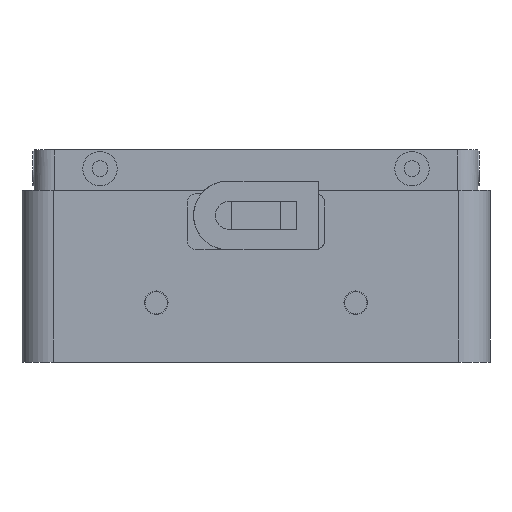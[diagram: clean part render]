
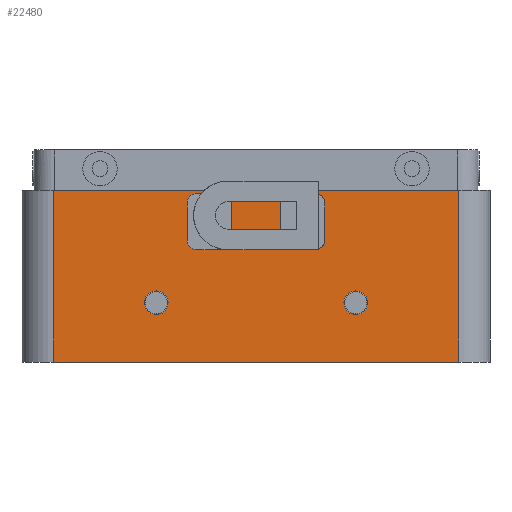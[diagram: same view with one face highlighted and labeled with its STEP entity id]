
A CAD part, left-side view. The second image highlights one B-rep face of the part: STEP entity #22480.
In plain terms, the highlighted planar face has unit normal (-1, 0, 0).
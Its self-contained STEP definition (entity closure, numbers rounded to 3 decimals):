
#14661=CARTESIAN_POINT('Vertex',(-94.,65.,55.)) ;
#14664=CARTESIAN_POINT('Line Origine',(-94.,0.,55.)) ;
#14668=CARTESIAN_POINT('Vertex',(-94.,-65.,55.)) ;
#22274=CARTESIAN_POINT('Vertex',(-94.,65.,0.)) ;
#22277=CARTESIAN_POINT('Line Origine',(-94.,65.,27.5)) ;
#22289=CARTESIAN_POINT('Axis2P3D Location',(-94.,65.,0.)) ;
#22294=CARTESIAN_POINT('Line Origine',(-94.,0.,0.)) ;
#22298=CARTESIAN_POINT('Vertex',(-94.,-65.,0.)) ;
#22301=CARTESIAN_POINT('Line Origine',(-94.,-65.,27.5)) ;
#22312=CARTESIAN_POINT('Axis2P3D Location',(-94.,-32.,19.)) ;
#22316=CARTESIAN_POINT('Vertex',(-94.,-28.2,19.)) ;
#22318=CARTESIAN_POINT('Vertex',(-94.,-35.8,19.)) ;
#22321=CARTESIAN_POINT('Axis2P3D Location',(-94.,-32.,19.)) ;
#22330=CARTESIAN_POINT('Axis2P3D Location',(-94.,32.,19.)) ;
#22334=CARTESIAN_POINT('Vertex',(-94.,35.8,19.)) ;
#22336=CARTESIAN_POINT('Vertex',(-94.,28.2,19.)) ;
#22339=CARTESIAN_POINT('Axis2P3D Location',(-94.,32.,19.)) ;
#22348=CARTESIAN_POINT('Axis2P3D Location',(-94.,-19.,39.)) ;
#22352=CARTESIAN_POINT('Vertex',(-94.,-22.,39.)) ;
#22354=CARTESIAN_POINT('Vertex',(-94.,-19.,36.)) ;
#22357=CARTESIAN_POINT('Line Origine',(-94.,-15.,36.)) ;
#22361=CARTESIAN_POINT('Vertex',(-94.,-11.,36.)) ;
#22364=CARTESIAN_POINT('Axis2P3D Location',(-94.,-11.,39.)) ;
#22368=CARTESIAN_POINT('Vertex',(-94.,-8.,39.)) ;
#22371=CARTESIAN_POINT('Line Origine',(-94.,-8.,45.)) ;
#22375=CARTESIAN_POINT('Vertex',(-94.,-8.,51.)) ;
#22378=CARTESIAN_POINT('Axis2P3D Location',(-94.,-11.,51.)) ;
#22382=CARTESIAN_POINT('Vertex',(-94.,-11.,54.)) ;
#22385=CARTESIAN_POINT('Line Origine',(-94.,-15.,54.)) ;
#22389=CARTESIAN_POINT('Vertex',(-94.,-19.,54.)) ;
#22392=CARTESIAN_POINT('Axis2P3D Location',(-94.,-19.,51.)) ;
#22396=CARTESIAN_POINT('Vertex',(-94.,-22.,51.)) ;
#22399=CARTESIAN_POINT('Line Origine',(-94.,-22.,45.)) ;
#22414=CARTESIAN_POINT('Axis2P3D Location',(-94.,11.,39.)) ;
#22418=CARTESIAN_POINT('Vertex',(-94.,8.,39.)) ;
#22420=CARTESIAN_POINT('Vertex',(-94.,11.,36.)) ;
#22423=CARTESIAN_POINT('Line Origine',(-94.,15.,36.)) ;
#22427=CARTESIAN_POINT('Vertex',(-94.,19.,36.)) ;
#22430=CARTESIAN_POINT('Axis2P3D Location',(-94.,19.,39.)) ;
#22434=CARTESIAN_POINT('Vertex',(-94.,22.,39.)) ;
#22437=CARTESIAN_POINT('Line Origine',(-94.,22.,45.)) ;
#22441=CARTESIAN_POINT('Vertex',(-94.,22.,51.)) ;
#22444=CARTESIAN_POINT('Axis2P3D Location',(-94.,19.,51.)) ;
#22448=CARTESIAN_POINT('Vertex',(-94.,19.,54.)) ;
#22451=CARTESIAN_POINT('Line Origine',(-94.,15.,54.)) ;
#22455=CARTESIAN_POINT('Vertex',(-94.,11.,54.)) ;
#22458=CARTESIAN_POINT('Axis2P3D Location',(-94.,11.,51.)) ;
#22462=CARTESIAN_POINT('Vertex',(-94.,8.,51.)) ;
#22465=CARTESIAN_POINT('Line Origine',(-94.,8.,45.)) ;
#14666=VECTOR('Line Direction',#14665,1.) ;
#22279=VECTOR('Line Direction',#22278,1.) ;
#22296=VECTOR('Line Direction',#22295,1.) ;
#22303=VECTOR('Line Direction',#22302,1.) ;
#22359=VECTOR('Line Direction',#22358,1.) ;
#22373=VECTOR('Line Direction',#22372,1.) ;
#22387=VECTOR('Line Direction',#22386,1.) ;
#22401=VECTOR('Line Direction',#22400,1.) ;
#22425=VECTOR('Line Direction',#22424,1.) ;
#22439=VECTOR('Line Direction',#22438,1.) ;
#22453=VECTOR('Line Direction',#22452,1.) ;
#22467=VECTOR('Line Direction',#22466,1.) ;
#14665=DIRECTION('Vector Direction',(0.,-1.,0.)) ;
#22278=DIRECTION('Vector Direction',(0.,0.,1.)) ;
#22290=DIRECTION('Axis2P3D Direction',(-1.,0.,0.)) ;
#22291=DIRECTION('Axis2P3D XDirection',(0.,-1.,0.)) ;
#22295=DIRECTION('Vector Direction',(0.,-1.,0.)) ;
#22302=DIRECTION('Vector Direction',(0.,0.,1.)) ;
#22313=DIRECTION('Axis2P3D Direction',(-1.,0.,0.)) ;
#22322=DIRECTION('Axis2P3D Direction',(-1.,0.,0.)) ;
#22331=DIRECTION('Axis2P3D Direction',(-1.,0.,0.)) ;
#22340=DIRECTION('Axis2P3D Direction',(-1.,0.,0.)) ;
#22349=DIRECTION('Axis2P3D Direction',(-1.,0.,0.)) ;
#22358=DIRECTION('Vector Direction',(0.,1.,0.)) ;
#22365=DIRECTION('Axis2P3D Direction',(-1.,0.,0.)) ;
#22372=DIRECTION('Vector Direction',(0.,0.,1.)) ;
#22379=DIRECTION('Axis2P3D Direction',(-1.,0.,0.)) ;
#22386=DIRECTION('Vector Direction',(0.,-1.,0.)) ;
#22393=DIRECTION('Axis2P3D Direction',(-1.,0.,0.)) ;
#22400=DIRECTION('Vector Direction',(0.,0.,-1.)) ;
#22415=DIRECTION('Axis2P3D Direction',(-1.,0.,0.)) ;
#22424=DIRECTION('Vector Direction',(0.,1.,0.)) ;
#22431=DIRECTION('Axis2P3D Direction',(-1.,0.,0.)) ;
#22438=DIRECTION('Vector Direction',(0.,0.,1.)) ;
#22445=DIRECTION('Axis2P3D Direction',(-1.,0.,0.)) ;
#22452=DIRECTION('Vector Direction',(0.,-1.,0.)) ;
#22459=DIRECTION('Axis2P3D Direction',(-1.,0.,0.)) ;
#22466=DIRECTION('Vector Direction',(0.,0.,-1.)) ;
#22292=AXIS2_PLACEMENT_3D('Plane Axis2P3D',#22289,#22290,#22291) ;
#22314=AXIS2_PLACEMENT_3D('Circle Axis2P3D',#22312,#22313,$) ;
#22323=AXIS2_PLACEMENT_3D('Circle Axis2P3D',#22321,#22322,$) ;
#22332=AXIS2_PLACEMENT_3D('Circle Axis2P3D',#22330,#22331,$) ;
#22341=AXIS2_PLACEMENT_3D('Circle Axis2P3D',#22339,#22340,$) ;
#22350=AXIS2_PLACEMENT_3D('Circle Axis2P3D',#22348,#22349,$) ;
#22366=AXIS2_PLACEMENT_3D('Circle Axis2P3D',#22364,#22365,$) ;
#22380=AXIS2_PLACEMENT_3D('Circle Axis2P3D',#22378,#22379,$) ;
#22394=AXIS2_PLACEMENT_3D('Circle Axis2P3D',#22392,#22393,$) ;
#22416=AXIS2_PLACEMENT_3D('Circle Axis2P3D',#22414,#22415,$) ;
#22432=AXIS2_PLACEMENT_3D('Circle Axis2P3D',#22430,#22431,$) ;
#22446=AXIS2_PLACEMENT_3D('Circle Axis2P3D',#22444,#22445,$) ;
#22460=AXIS2_PLACEMENT_3D('Circle Axis2P3D',#22458,#22459,$) ;
#14667=LINE('Line',#14664,#14666) ;
#22280=LINE('Line',#22277,#22279) ;
#22297=LINE('Line',#22294,#22296) ;
#22304=LINE('Line',#22301,#22303) ;
#22360=LINE('Line',#22357,#22359) ;
#22374=LINE('Line',#22371,#22373) ;
#22388=LINE('Line',#22385,#22387) ;
#22402=LINE('Line',#22399,#22401) ;
#22426=LINE('Line',#22423,#22425) ;
#22440=LINE('Line',#22437,#22439) ;
#22454=LINE('Line',#22451,#22453) ;
#22468=LINE('Line',#22465,#22467) ;
#22315=CIRCLE('generated circle',#22314,3.8) ;
#22324=CIRCLE('generated circle',#22323,3.8) ;
#22333=CIRCLE('generated circle',#22332,3.8) ;
#22342=CIRCLE('generated circle',#22341,3.8) ;
#22351=CIRCLE('generated circle',#22350,3.) ;
#22367=CIRCLE('generated circle',#22366,3.) ;
#22381=CIRCLE('generated circle',#22380,3.) ;
#22395=CIRCLE('generated circle',#22394,3.) ;
#22417=CIRCLE('generated circle',#22416,3.) ;
#22433=CIRCLE('generated circle',#22432,3.) ;
#22447=CIRCLE('generated circle',#22446,3.) ;
#22461=CIRCLE('generated circle',#22460,3.) ;
#22293=PLANE('',#22292) ;
#22329=FACE_BOUND('',#22326,.T.) ;
#22347=FACE_BOUND('',#22344,.T.) ;
#22413=FACE_BOUND('',#22404,.T.) ;
#22479=FACE_BOUND('',#22470,.T.) ;
#14670=EDGE_CURVE('',#14662,#14669,#14667,.T.) ;
#22281=EDGE_CURVE('',#22275,#14662,#22280,.T.) ;
#22300=EDGE_CURVE('',#22275,#22299,#22297,.T.) ;
#22305=EDGE_CURVE('',#22299,#14669,#22304,.T.) ;
#22320=EDGE_CURVE('',#22317,#22319,#22315,.F.) ;
#22325=EDGE_CURVE('',#22319,#22317,#22324,.F.) ;
#22338=EDGE_CURVE('',#22335,#22337,#22333,.F.) ;
#22343=EDGE_CURVE('',#22337,#22335,#22342,.F.) ;
#22356=EDGE_CURVE('',#22353,#22355,#22351,.F.) ;
#22363=EDGE_CURVE('',#22355,#22362,#22360,.T.) ;
#22370=EDGE_CURVE('',#22362,#22369,#22367,.F.) ;
#22377=EDGE_CURVE('',#22369,#22376,#22374,.T.) ;
#22384=EDGE_CURVE('',#22376,#22383,#22381,.F.) ;
#22391=EDGE_CURVE('',#22383,#22390,#22388,.T.) ;
#22398=EDGE_CURVE('',#22390,#22397,#22395,.F.) ;
#22403=EDGE_CURVE('',#22397,#22353,#22402,.T.) ;
#22422=EDGE_CURVE('',#22419,#22421,#22417,.F.) ;
#22429=EDGE_CURVE('',#22421,#22428,#22426,.T.) ;
#22436=EDGE_CURVE('',#22428,#22435,#22433,.F.) ;
#22443=EDGE_CURVE('',#22435,#22442,#22440,.T.) ;
#22450=EDGE_CURVE('',#22442,#22449,#22447,.F.) ;
#22457=EDGE_CURVE('',#22449,#22456,#22454,.T.) ;
#22464=EDGE_CURVE('',#22456,#22463,#22461,.F.) ;
#22469=EDGE_CURVE('',#22463,#22419,#22468,.T.) ;
#22307=ORIENTED_EDGE('',*,*,#22281,.F.) ;
#22308=ORIENTED_EDGE('',*,*,#22300,.T.) ;
#22309=ORIENTED_EDGE('',*,*,#22305,.T.) ;
#22310=ORIENTED_EDGE('',*,*,#14670,.F.) ;
#22327=ORIENTED_EDGE('',*,*,#22320,.T.) ;
#22328=ORIENTED_EDGE('',*,*,#22325,.T.) ;
#22345=ORIENTED_EDGE('',*,*,#22338,.T.) ;
#22346=ORIENTED_EDGE('',*,*,#22343,.T.) ;
#22405=ORIENTED_EDGE('',*,*,#22356,.T.) ;
#22406=ORIENTED_EDGE('',*,*,#22363,.T.) ;
#22407=ORIENTED_EDGE('',*,*,#22370,.T.) ;
#22408=ORIENTED_EDGE('',*,*,#22377,.T.) ;
#22409=ORIENTED_EDGE('',*,*,#22384,.T.) ;
#22410=ORIENTED_EDGE('',*,*,#22391,.T.) ;
#22411=ORIENTED_EDGE('',*,*,#22398,.T.) ;
#22412=ORIENTED_EDGE('',*,*,#22403,.T.) ;
#22471=ORIENTED_EDGE('',*,*,#22422,.T.) ;
#22472=ORIENTED_EDGE('',*,*,#22429,.T.) ;
#22473=ORIENTED_EDGE('',*,*,#22436,.T.) ;
#22474=ORIENTED_EDGE('',*,*,#22443,.T.) ;
#22475=ORIENTED_EDGE('',*,*,#22450,.T.) ;
#22476=ORIENTED_EDGE('',*,*,#22457,.T.) ;
#22477=ORIENTED_EDGE('',*,*,#22464,.T.) ;
#22478=ORIENTED_EDGE('',*,*,#22469,.T.) ;
#22306=EDGE_LOOP('',(#22307,#22308,#22309,#22310)) ;
#22326=EDGE_LOOP('',(#22327,#22328)) ;
#22344=EDGE_LOOP('',(#22345,#22346)) ;
#22404=EDGE_LOOP('',(#22405,#22406,#22407,#22408,#22409,#22410,#22411,#22412)) ;
#22470=EDGE_LOOP('',(#22471,#22472,#22473,#22474,#22475,#22476,#22477,#22478)) ;
#14662=VERTEX_POINT('',#14661) ;
#14669=VERTEX_POINT('',#14668) ;
#22275=VERTEX_POINT('',#22274) ;
#22299=VERTEX_POINT('',#22298) ;
#22317=VERTEX_POINT('',#22316) ;
#22319=VERTEX_POINT('',#22318) ;
#22335=VERTEX_POINT('',#22334) ;
#22337=VERTEX_POINT('',#22336) ;
#22353=VERTEX_POINT('',#22352) ;
#22355=VERTEX_POINT('',#22354) ;
#22362=VERTEX_POINT('',#22361) ;
#22369=VERTEX_POINT('',#22368) ;
#22376=VERTEX_POINT('',#22375) ;
#22383=VERTEX_POINT('',#22382) ;
#22390=VERTEX_POINT('',#22389) ;
#22397=VERTEX_POINT('',#22396) ;
#22419=VERTEX_POINT('',#22418) ;
#22421=VERTEX_POINT('',#22420) ;
#22428=VERTEX_POINT('',#22427) ;
#22435=VERTEX_POINT('',#22434) ;
#22442=VERTEX_POINT('',#22441) ;
#22449=VERTEX_POINT('',#22448) ;
#22456=VERTEX_POINT('',#22455) ;
#22463=VERTEX_POINT('',#22462) ;
#22480=ADVANCED_FACE('MAIN_HOUSING',(#22311,#22329,#22347,#22413,#22479),#22293,.T.) ;
#22311=FACE_OUTER_BOUND('',#22306,.T.) ;
